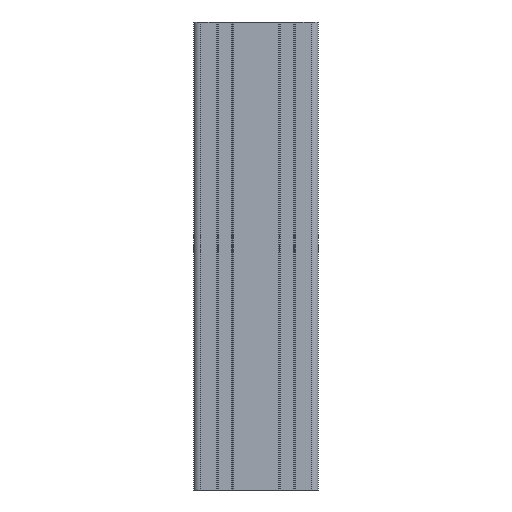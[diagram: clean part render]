
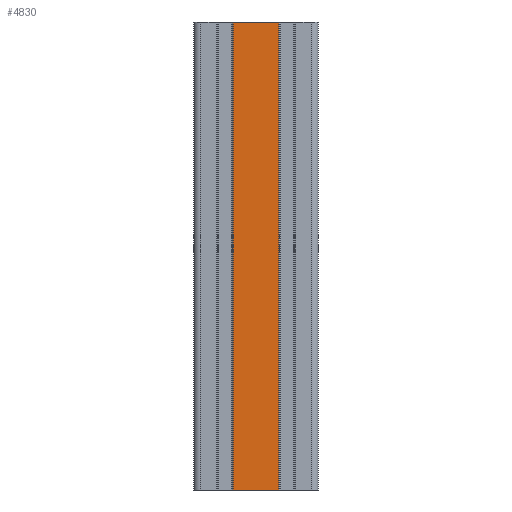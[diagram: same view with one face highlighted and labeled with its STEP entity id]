
A CAD part, front view. The second image highlights one B-rep face of the part: STEP entity #4830.
In plain terms, the highlighted planar face has unit normal (0, -1, 0).
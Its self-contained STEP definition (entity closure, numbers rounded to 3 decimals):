
#177 = CARTESIAN_POINT ( 'NONE',  ( 2315.697, 1215.338, 300. ) ) ;
#325 = DIRECTION ( 'NONE',  ( 0., 0., 1. ) ) ;
#451 = VECTOR ( 'NONE', #2332, 1000. ) ;
#568 = ORIENTED_EDGE ( 'NONE', *, *, #5765, .T. ) ;
#890 = LINE ( 'NONE', #1752, #4576 ) ;
#921 = DIRECTION ( 'NONE',  ( 1., 0., 0. ) ) ;
#1033 = PLANE ( 'NONE',  #7383 ) ;
#1225 = ORIENTED_EDGE ( 'NONE', *, *, #2956, .F. ) ;
#1376 = DIRECTION ( 'NONE',  ( 0., 1., 0. ) ) ;
#1614 = VERTEX_POINT ( 'NONE', #8033 ) ;
#1648 = CARTESIAN_POINT ( 'NONE',  ( 2315.697, 1215.338, 300. ) ) ;
#1687 = ORIENTED_EDGE ( 'NONE', *, *, #9010, .T. ) ;
#1752 = CARTESIAN_POINT ( 'NONE',  ( 2315.697, 1215.338, 0. ) ) ;
#2030 = ORIENTED_EDGE ( 'NONE', *, *, #2510, .F. ) ;
#2332 = DIRECTION ( 'NONE',  ( 0., 0., -1. ) ) ;
#2405 = CARTESIAN_POINT ( 'NONE',  ( 2315.697, 1215.338, 300. ) ) ;
#2510 = EDGE_CURVE ( 'NONE', #8970, #7643, #3457, .T. ) ;
#2607 = DIRECTION ( 'NONE',  ( 0., 0., -1. ) ) ;
#2956 = EDGE_CURVE ( 'NONE', #1614, #8970, #4860, .T. ) ;
#3457 = LINE ( 'NONE', #3965, #7025 ) ;
#3965 = CARTESIAN_POINT ( 'NONE',  ( 2315.697, 1215.338, 300. ) ) ;
#4576 = VECTOR ( 'NONE', #6669, 1000. ) ;
#4830 = ADVANCED_FACE ( 'NONE', ( #7315 ), #1033, .F. ) ;
#4860 = LINE ( 'NONE', #1648, #8508 ) ;
#5113 = CARTESIAN_POINT ( 'NONE',  ( 2315.697, 1215.338, 0. ) ) ;
#5765 = EDGE_CURVE ( 'NONE', #1614, #7852, #9001, .T. ) ;
#6405 = EDGE_LOOP ( 'NONE', ( #1687, #2030, #1225, #568 ) ) ;
#6544 = CARTESIAN_POINT ( 'NONE',  ( 2286.497, 1215.338, 300. ) ) ;
#6669 = DIRECTION ( 'NONE',  ( 1., 0., 0. ) ) ;
#7025 = VECTOR ( 'NONE', #2607, 1000. ) ;
#7315 = FACE_OUTER_BOUND ( 'NONE', #6405, .T. ) ;
#7383 = AXIS2_PLACEMENT_3D ( 'NONE', #177, #1376, #325 ) ;
#7643 = VERTEX_POINT ( 'NONE', #5113 ) ;
#7852 = VERTEX_POINT ( 'NONE', #8797 ) ;
#8033 = CARTESIAN_POINT ( 'NONE',  ( 2286.497, 1215.338, 300. ) ) ;
#8508 = VECTOR ( 'NONE', #921, 1000. ) ;
#8797 = CARTESIAN_POINT ( 'NONE',  ( 2286.497, 1215.338, 0. ) ) ;
#8970 = VERTEX_POINT ( 'NONE', #2405 ) ;
#9001 = LINE ( 'NONE', #6544, #451 ) ;
#9010 = EDGE_CURVE ( 'NONE', #7852, #7643, #890, .T. ) ;
